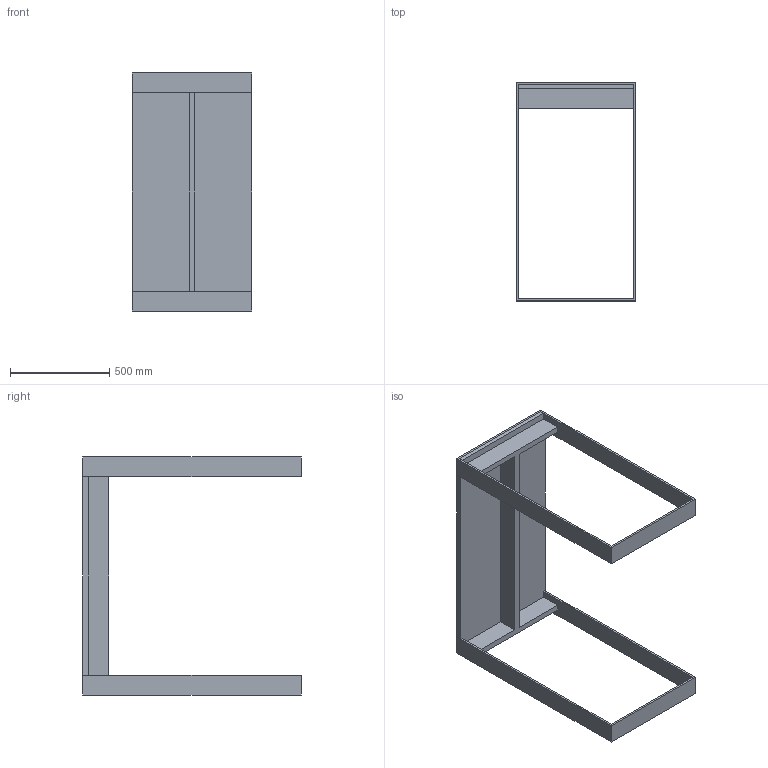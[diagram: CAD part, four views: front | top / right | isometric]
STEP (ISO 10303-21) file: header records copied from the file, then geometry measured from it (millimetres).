
FILE_DESCRIPTION (( 'STEP AP203' ), '1' );
FILE_NAME ('Haag 1200x600x1100.STEP', '2019-04-02T18:07:49', ( '' ), ( '' ), 'SwSTEP 2.0', 'SolidWorks 2019', '' );
FILE_SCHEMA (( 'CONFIG_CONTROL_DESIGN' ));
Length unit declared in the file: millimetre
Products named in the file (1): Haag 1200x600x1100
Bounding box: 600 x 1100 x 1200 mm (x, y, z)
Volume: 33730000 mm3; surface area: 3600200 mm2
Topology: 4 solids, 4 shells, 48 faces, 120 edges, 80 vertices
Faces by surface type: plane 48
Entity records: 1483 total; most frequent: CARTESIAN_POINT 249, ORIENTED_EDGE 240, DIRECTION 218, EDGE_CURVE 120, VECTOR 120, LINE 120, VERTEX_POINT 80, EDGE_LOOP 52
